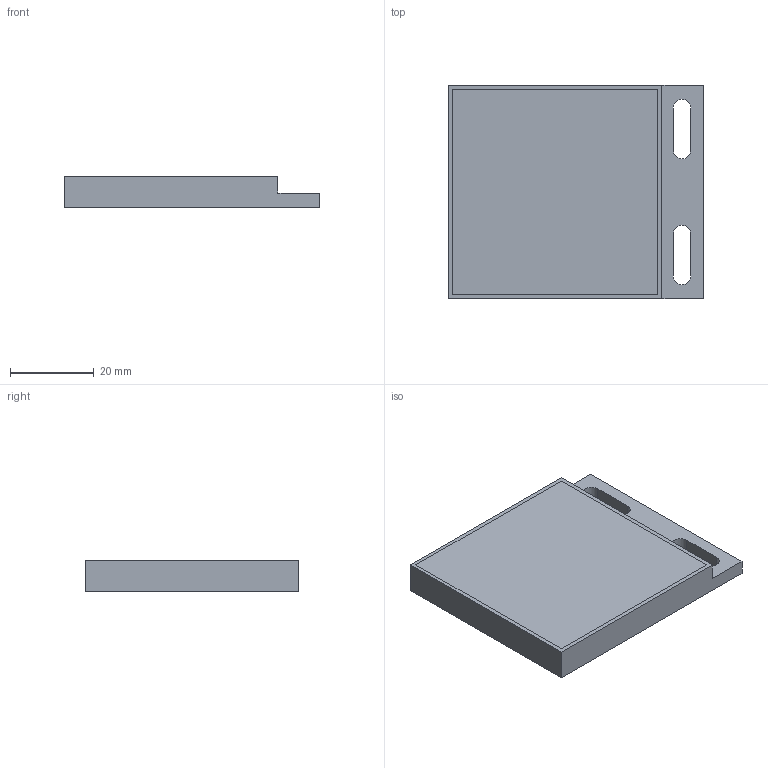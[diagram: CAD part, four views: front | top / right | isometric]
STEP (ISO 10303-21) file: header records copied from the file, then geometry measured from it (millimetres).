
FILE_DESCRIPTION(/* description */ (''),/* implementation_level */ '2;1');
FILE_NAME(/* name */ 'DSD-0545 R4.stp',/* time_stamp */ '2013-05-10T11:38:50+02:00',/* author */ (''),/* organization */ (''),/* preprocessor_version */ 'ST-DEVELOPER v11',/* originating_system */ 'SIEMENS PLM Software NX 7.5',/* authorisation */ '');
FILE_SCHEMA (('CONFIG_CONTROL_DESIGN'));
Length unit declared in the file: millimetre
Products named in the file (1): MP002554_01
Bounding box: 61 x 51 x 7.5 mm (x, y, z)
Volume: 20901.5 mm3; surface area: 15180.9 mm2
Topology: 2 solids, 2 shells, 27 faces, 66 edges, 44 vertices
Faces by surface type: plane 23, cylinder 4
Entity records: 880 total; most frequent: CARTESIAN_POINT 138, ORIENTED_EDGE 132, DIRECTION 130, EDGE_CURVE 66, LINE 58, VECTOR 58, VERTEX_POINT 44, AXIS2_PLACEMENT_3D 36
